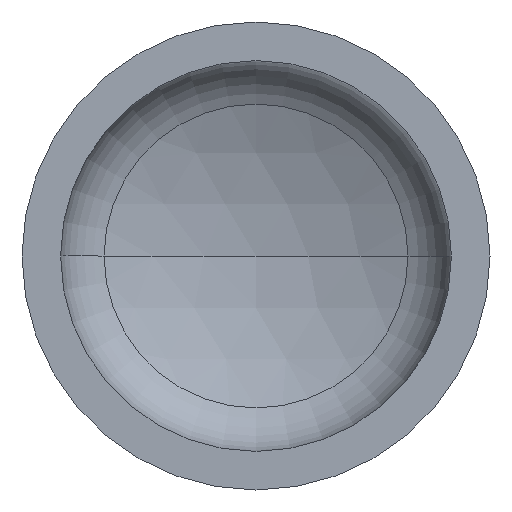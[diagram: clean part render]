
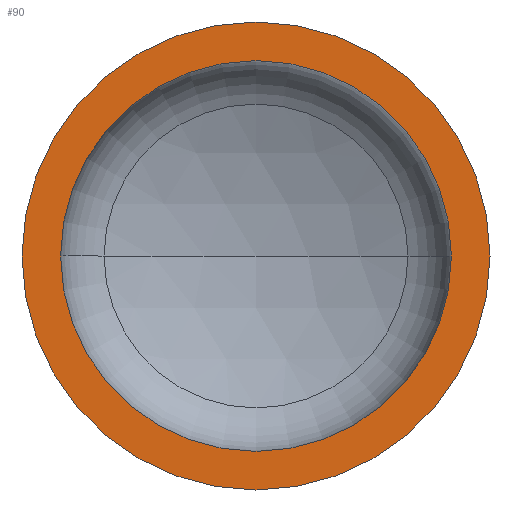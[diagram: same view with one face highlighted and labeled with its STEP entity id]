
A CAD part, front view. The second image highlights one B-rep face of the part: STEP entity #90.
In plain terms, the highlighted planar face has unit normal (0, -1, 0).
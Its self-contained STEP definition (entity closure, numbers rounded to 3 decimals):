
#17 = AXIS2_PLACEMENT_3D ( 'NONE', #117, #87, #141 ) ;
#20 = EDGE_LOOP ( 'NONE', ( #184, #295 ) ) ;
#26 = CIRCLE ( 'NONE', #41, 400. ) ;
#36 = AXIS2_PLACEMENT_3D ( 'NONE', #288, #287, #286 ) ;
#41 = AXIS2_PLACEMENT_3D ( 'NONE', #355, #354, #178 ) ;
#66 = VERTEX_POINT ( 'NONE', #198 ) ;
#68 = EDGE_CURVE ( 'NONE', #403, #139, #26, .T. ) ;
#69 = EDGE_CURVE ( 'NONE', #66, #107, #277, .T. ) ;
#86 = ORIENTED_EDGE ( 'NONE', *, *, #345, .T. ) ;
#87 = DIRECTION ( 'NONE',  ( 0., 1., 0. ) ) ;
#90 = ADVANCED_FACE ( 'NONE', ( #103, #408 ), #93, .F. ) ;
#93 = PLANE ( 'NONE',  #17 ) ;
#95 = DIRECTION ( 'NONE',  ( 0., -1., 0. ) ) ;
#103 = FACE_BOUND ( 'NONE', #20, .T. ) ;
#105 = CARTESIAN_POINT ( 'NONE',  ( -400., 0., 0. ) ) ;
#107 = VERTEX_POINT ( 'NONE', #165 ) ;
#117 = CARTESIAN_POINT ( 'NONE',  ( -400., 0., 0. ) ) ;
#134 = CARTESIAN_POINT ( 'NONE',  ( 0., 0., 0. ) ) ;
#139 = VERTEX_POINT ( 'NONE', #255 ) ;
#141 = DIRECTION ( 'NONE',  ( -1., 0., 0. ) ) ;
#149 = CIRCLE ( 'NONE', #197, 334. ) ;
#165 = CARTESIAN_POINT ( 'NONE',  ( -334., 0., 0. ) ) ;
#178 = DIRECTION ( 'NONE',  ( 1., 0., 0. ) ) ;
#184 = ORIENTED_EDGE ( 'NONE', *, *, #69, .F. ) ;
#196 = ORIENTED_EDGE ( 'NONE', *, *, #68, .T. ) ;
#197 = AXIS2_PLACEMENT_3D ( 'NONE', #134, #410, #237 ) ;
#198 = CARTESIAN_POINT ( 'NONE',  ( 334., 0., 0. ) ) ;
#237 = DIRECTION ( 'NONE',  ( 1., 0., 0. ) ) ;
#253 = AXIS2_PLACEMENT_3D ( 'NONE', #340, #95, #308 ) ;
#255 = CARTESIAN_POINT ( 'NONE',  ( 400., 0., 0. ) ) ;
#277 = CIRCLE ( 'NONE', #36, 334. ) ;
#286 = DIRECTION ( 'NONE',  ( 1., 0., 0. ) ) ;
#287 = DIRECTION ( 'NONE',  ( 0., -1., 0. ) ) ;
#288 = CARTESIAN_POINT ( 'NONE',  ( 0., 0., 0. ) ) ;
#290 = CIRCLE ( 'NONE', #253, 400. ) ;
#295 = ORIENTED_EDGE ( 'NONE', *, *, #318, .F. ) ;
#308 = DIRECTION ( 'NONE',  ( 1., 0., 0. ) ) ;
#318 = EDGE_CURVE ( 'NONE', #107, #66, #149, .T. ) ;
#340 = CARTESIAN_POINT ( 'NONE',  ( 0., 0., 0. ) ) ;
#345 = EDGE_CURVE ( 'NONE', #139, #403, #290, .T. ) ;
#354 = DIRECTION ( 'NONE',  ( 0., -1., 0. ) ) ;
#355 = CARTESIAN_POINT ( 'NONE',  ( 0., 0., 0. ) ) ;
#382 = EDGE_LOOP ( 'NONE', ( #86, #196 ) ) ;
#403 = VERTEX_POINT ( 'NONE', #105 ) ;
#408 = FACE_OUTER_BOUND ( 'NONE', #382, .T. ) ;
#410 = DIRECTION ( 'NONE',  ( 0., -1., 0. ) ) ;
